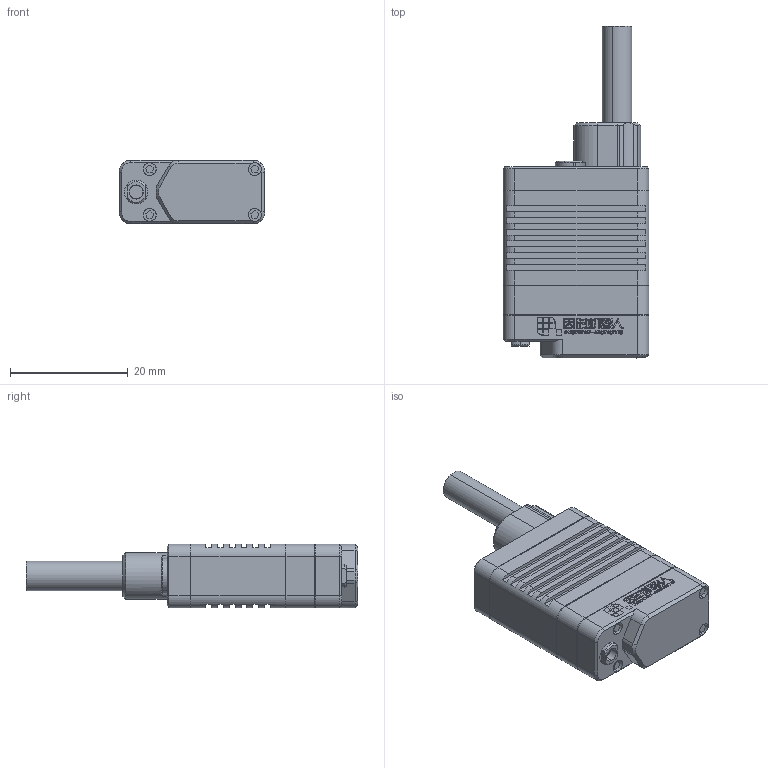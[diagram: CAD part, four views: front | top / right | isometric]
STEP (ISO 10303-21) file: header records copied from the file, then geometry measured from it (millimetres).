
FILE_DESCRIPTION (( 'STEP AP214' ), '1' );
FILE_NAME ('LAS16-0x1D.STEP', '2022-12-28T09:13:42', ( '' ), ( '' ), '', '', '' );
FILE_SCHEMA (( 'AUTOMOTIVE_DESIGN' ));
Length unit declared in the file: millimetre
Products named in the file (4): exA820116-015祥凄詩杶奪_1; LAS16-0x1D; Part5^LAS16-0x1D; A820109-025揤盄蹟譫
Assembly tree (3 placements, depth 2):
  LAS16-0x1D
    exA820116-015祥凄詩杶奪_1
    Part5^LAS16-0x1D
    A820109-025揤盄蹟譫
Bounding box: 24.8 x 56.5 x 10.8 mm (x, y, z)
Volume: 8902.7 mm3; surface area: 4731.8 mm2
Topology: 3 solids, 10 shells, 1500 faces, 3945 edges, 2589 vertices
Faces by surface type: plane 846, bspline 440, cylinder 149, cone 65
Entity records: 54575 total; most frequent: CARTESIAN_POINT 14236, ORIENTED_EDGE 7884, DIRECTION 5625, EDGE_CURVE 3942, VERTEX_POINT 2589, VECTOR 2573, LINE 2573, EDGE_LOOP 1645
